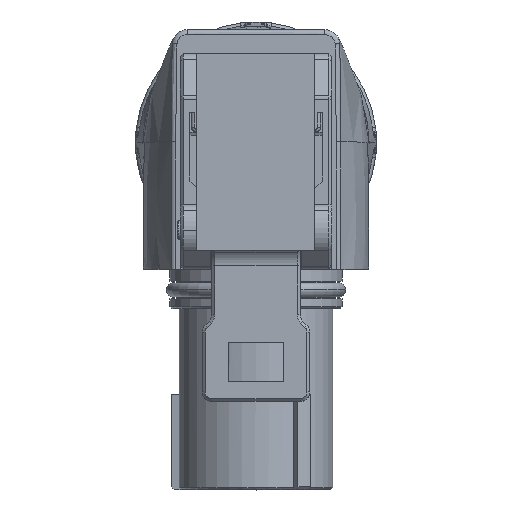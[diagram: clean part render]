
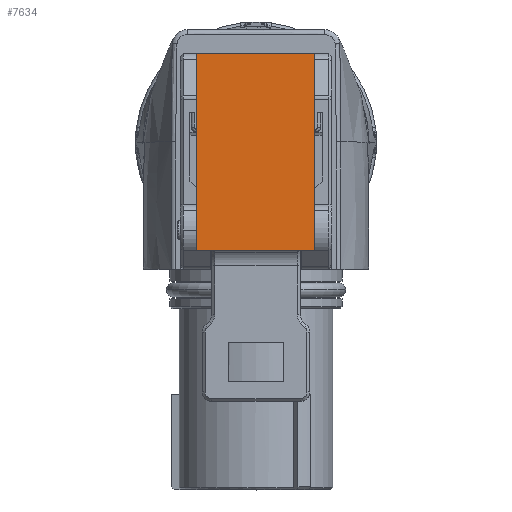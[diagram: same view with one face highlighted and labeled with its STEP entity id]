
A CAD part, top view. The second image highlights one B-rep face of the part: STEP entity #7634.
In plain terms, the highlighted planar face has unit normal (0, 0, 1).
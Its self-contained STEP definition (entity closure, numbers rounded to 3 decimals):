
#52 = VECTOR ( 'NONE', #3010, 1000. ) ;
#1158 = CARTESIAN_POINT ( 'NONE',  ( 6., -13.125, 24.2 ) ) ;
#1931 = PLANE ( 'NONE',  #10824 ) ;
#3010 = DIRECTION ( 'NONE',  ( 0., 1., 0. ) ) ;
#4285 = ORIENTED_EDGE ( 'NONE', *, *, #8098, .T. ) ;
#4564 = CARTESIAN_POINT ( 'NONE',  ( -6.05, 6.997, 24.2 ) ) ;
#4635 = DIRECTION ( 'NONE',  ( -1., 0., 0. ) ) ;
#4911 = EDGE_CURVE ( 'NONE', #23581, #33764, #27420, .T. ) ;
#7521 = EDGE_LOOP ( 'NONE', ( #22288, #15403, #4285, #23368 ) ) ;
#7634 = ADVANCED_FACE ( 'NONE', ( #29541 ), #1931, .F. ) ;
#7735 = VECTOR ( 'NONE', #16426, 1000. ) ;
#8098 = EDGE_CURVE ( 'NONE', #23947, #20040, #21291, .T. ) ;
#8570 = LINE ( 'NONE', #29668, #7735 ) ;
#10824 = AXIS2_PLACEMENT_3D ( 'NONE', #25720, #20543, #4635 ) ;
#12563 = CARTESIAN_POINT ( 'NONE',  ( -6.05, -13.125, 24.2 ) ) ;
#14226 = VECTOR ( 'NONE', #18474, 1000. ) ;
#14326 = EDGE_CURVE ( 'NONE', #33764, #20040, #28883, .T. ) ;
#15350 = CARTESIAN_POINT ( 'NONE',  ( 6., 6.997, 24.2 ) ) ;
#15403 = ORIENTED_EDGE ( 'NONE', *, *, #32676, .T. ) ;
#16426 = DIRECTION ( 'NONE',  ( 1., 0., 0. ) ) ;
#17814 = DIRECTION ( 'NONE',  ( 1., 0., 0. ) ) ;
#18474 = DIRECTION ( 'NONE',  ( 0., 1., 0. ) ) ;
#18816 = CARTESIAN_POINT ( 'NONE',  ( -6.05, -13.125, 24.2 ) ) ;
#20040 = VERTEX_POINT ( 'NONE', #15350 ) ;
#20543 = DIRECTION ( 'NONE',  ( 0., 0., -1. ) ) ;
#21291 = LINE ( 'NONE', #31629, #14226 ) ;
#21877 = VECTOR ( 'NONE', #17814, 1000. ) ;
#22288 = ORIENTED_EDGE ( 'NONE', *, *, #4911, .F. ) ;
#23368 = ORIENTED_EDGE ( 'NONE', *, *, #14326, .F. ) ;
#23581 = VERTEX_POINT ( 'NONE', #12563 ) ;
#23947 = VERTEX_POINT ( 'NONE', #1158 ) ;
#25720 = CARTESIAN_POINT ( 'NONE',  ( 0., 0., 24.2 ) ) ;
#27420 = LINE ( 'NONE', #18816, #52 ) ;
#28883 = LINE ( 'NONE', #4564, #21877 ) ;
#29541 = FACE_OUTER_BOUND ( 'NONE', #7521, .T. ) ;
#29668 = CARTESIAN_POINT ( 'NONE',  ( -6.05, -13.125, 24.2 ) ) ;
#31441 = CARTESIAN_POINT ( 'NONE',  ( -6.05, 6.997, 24.2 ) ) ;
#31629 = CARTESIAN_POINT ( 'NONE',  ( 6., -13.125, 24.2 ) ) ;
#32676 = EDGE_CURVE ( 'NONE', #23581, #23947, #8570, .T. ) ;
#33764 = VERTEX_POINT ( 'NONE', #31441 ) ;
